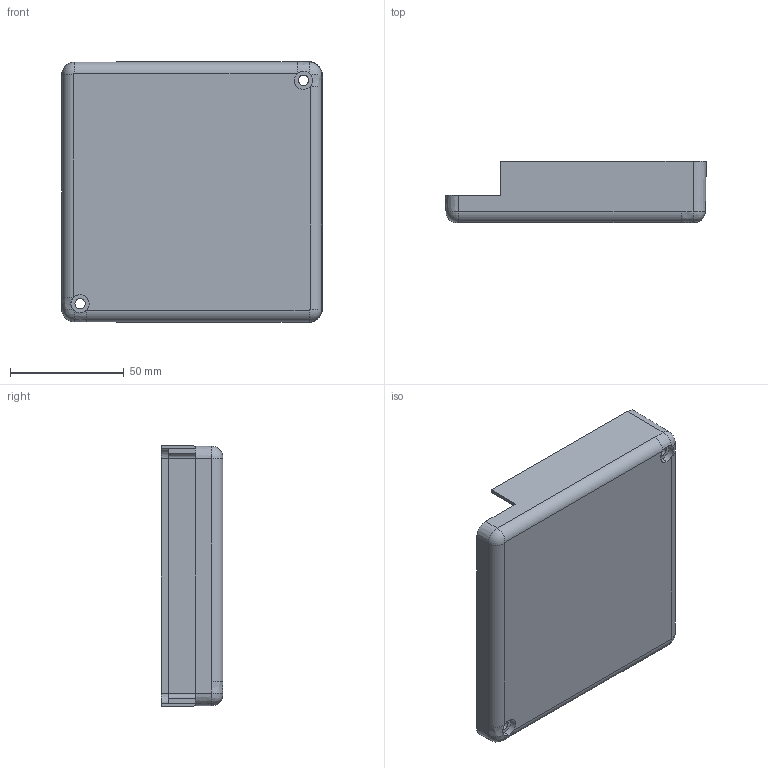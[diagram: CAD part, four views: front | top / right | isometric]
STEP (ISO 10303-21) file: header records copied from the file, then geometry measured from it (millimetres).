
FILE_DESCRIPTION (( 'STEP AP214' ), '1' );
FILE_NAME ('5201001碟裔.STEP', '2024-02-27T04:41:22', ( 'DELL' ), ( '' ), 'SwSTEP 2.0', 'SolidWorks 2021', '' );
FILE_SCHEMA (( 'AUTOMOTIVE_DESIGN' ));
Length unit declared in the file: millimetre
Products named in the file (1): 5201001碟裔
Bounding box: 114.24 x 27 x 114.45 mm (x, y, z)
Volume: 68291.4 mm3; surface area: 42747.4 mm2
Topology: 1 solids, 1 shells, 61 faces, 165 edges, 106 vertices
Faces by surface type: plane 26, cylinder 19, cone 8, bspline 6, torus 2
Entity records: 2287 total; most frequent: CARTESIAN_POINT 697, DIRECTION 333, ORIENTED_EDGE 330, EDGE_CURVE 165, AXIS2_PLACEMENT_3D 122, VERTEX_POINT 106, LINE 89, VECTOR 89
